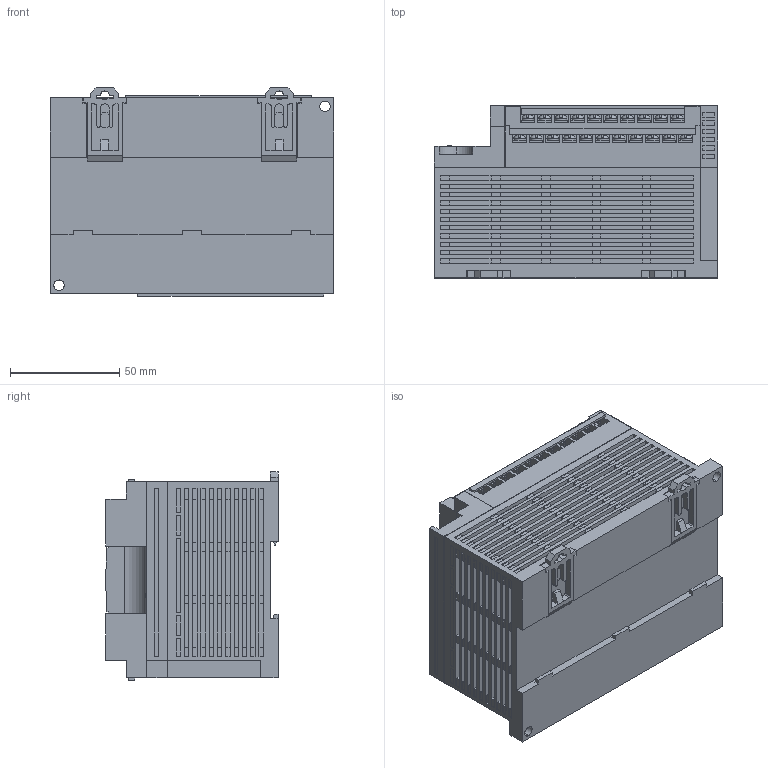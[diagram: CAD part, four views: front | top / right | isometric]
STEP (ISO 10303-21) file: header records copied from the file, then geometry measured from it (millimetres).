
FILE_DESCRIPTION (( 'STEP AP214' ), '1' );
FILE_NAME ('afpx0l30r.step', '2012-02-13T08:04:18', ( '' ), ( '' ), '', '', '' );
FILE_SCHEMA (( 'AUTOMOTIVE_DESIGN' ));
Length unit declared in the file: millimetre
Products named in the file (1): afpx0l30r
Bounding box: 130 x 79 x 95.5 mm (x, y, z)
Volume: 803314.5 mm3; surface area: 99171.3 mm2
Topology: 1 solids, 1 shells, 2881 faces, 7802 edges, 5096 vertices
Faces by surface type: plane 2577, cylinder 220, torus 84
Entity records: 124581 total; most frequent: CARTESIAN_POINT 20484, ORIENTED_EDGE 15604, DIRECTION 13846, EDGE_CURVE 7802, VECTOR 6514, LINE 6514, VERTEX_POINT 5096, AXIS2_PLACEMENT_3D 3666
